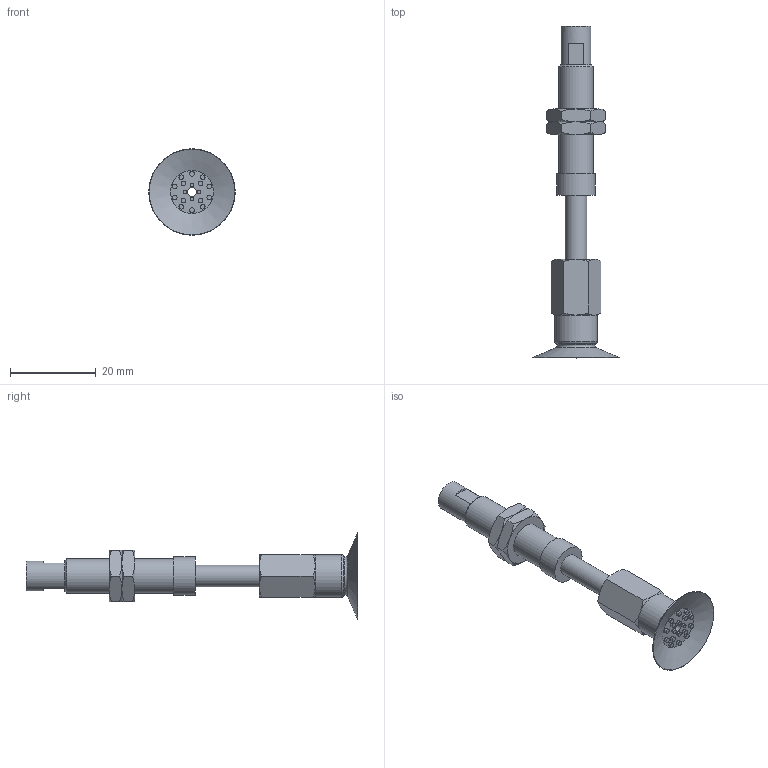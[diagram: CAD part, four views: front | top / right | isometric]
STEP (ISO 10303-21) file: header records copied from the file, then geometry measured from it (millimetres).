
FILE_DESCRIPTION(('STEP AP203'),'1');
FILE_NAME('.stp','2025-08-26T08:57:18',(' '),(' '),'Spatial InterOp 3D',' ',' ');
FILE_SCHEMA(('CONFIG_CONTROL_DESIGN'));
Length unit declared in the file: millimetre
Products named in the file (6): BNABPATS-20A-15-※; ADAPTER; NAPATS-10A-15--M; NAPATS-20A-15--F; Nut-10A-S; BPAG-20A-※_3D
Assembly tree (6 placements, depth 2):
  BNABPATS-20A-15-※
    ADAPTER
    NAPATS-10A-15--M
    NAPATS-20A-15--F
    Nut-10A-S  x2
    BPAG-20A-※_3D
Bounding box: 20.19 x 77.5 x 20.19 mm (x, y, z)
Volume: 4257.3 mm3; surface area: 5245.2 mm2
Topology: 6 solids, 6 shells, 149 faces, 290 edges, 178 vertices
Faces by surface type: plane 59, cone 46, cylinder 34, torus 10
Full cylindrical faces by diameter (mm): 0.9 x4, 1.1 x14, 2 x3, 4 x2, 4.134 x1, 5 x2, 6 x2, 7 x1, 7.188 x2, 8 x1, 9 x1, 10 x1
Entity records: 3364 total; most frequent: CARTESIAN_POINT 743, DIRECTION 510, ORIENTED_EDGE 362, AXIS2_PLACEMENT_3D 244, EDGE_LOOP 212, EDGE_CURVE 181, FACE_OUTER_BOUND 169, VERTEX_POINT 141
